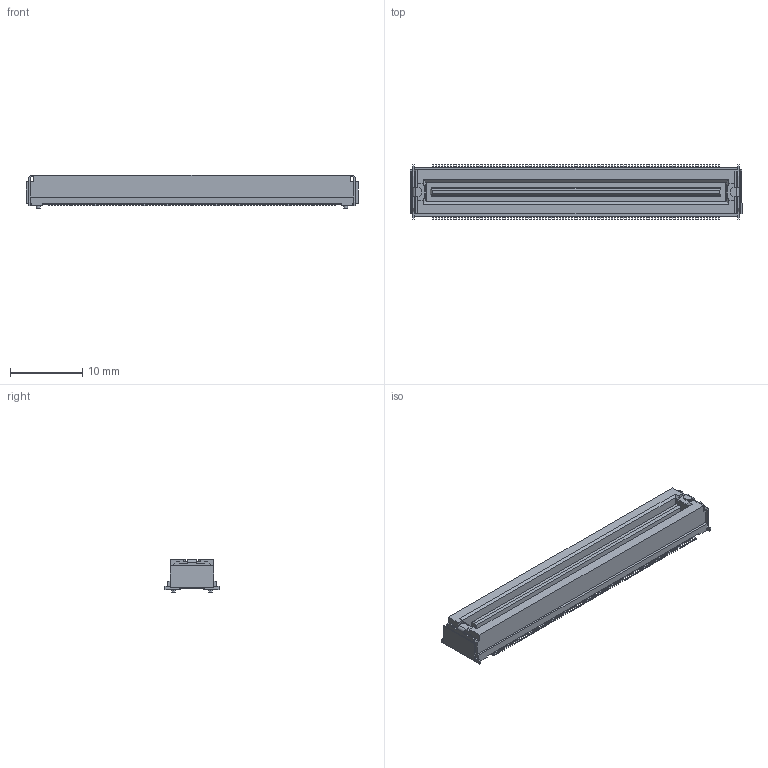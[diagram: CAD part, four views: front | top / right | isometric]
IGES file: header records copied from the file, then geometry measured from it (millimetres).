
Start section: Elysium IGES Interface
Global section: file name: C:\Users\1354\Desktop\P3D161_DU01-200SB\P3D161_DU01-200SB.igs; native system: Creo Elements/Direct Modeling 19.0F  14-Feb-2017; preprocessor: Creo Element/Direct IGES_3D V2.2; author: Unknown; organization: Unknown; date: 20171127.155659; units: millimetre
Bounding box: 46.1 x 7.5 x 4.7 mm (x, y, z)
Volume: 912.4 mm3; surface area: 1619.4 mm2
Topology: 1 solids, 1 shells, 1904 faces, 5373 edges, 3574 vertices
Faces by surface type: bspline 1904
